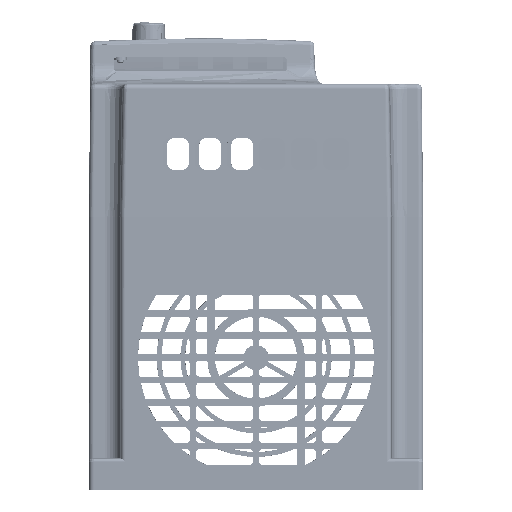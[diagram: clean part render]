
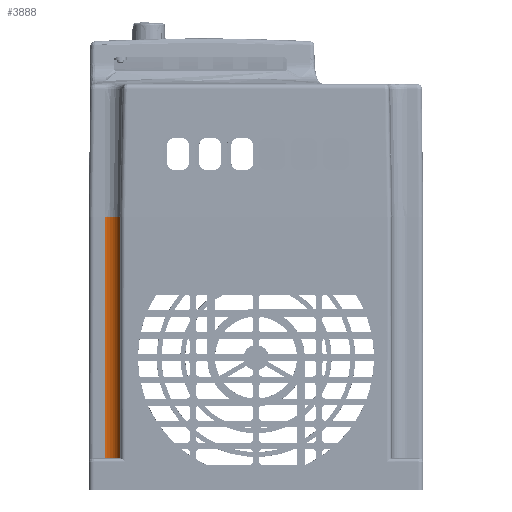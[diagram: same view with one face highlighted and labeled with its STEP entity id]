
A CAD part, front view. The second image highlights one B-rep face of the part: STEP entity #3888.
In plain terms, the highlighted cylindrical face has radius 4.999 mm (diameter 9.999 mm), a partial arc.
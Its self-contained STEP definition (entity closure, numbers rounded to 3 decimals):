
#3671 = EDGE_CURVE ( 'NONE', #5507, #5509, #103587, .T. ) ;
#3672 = EDGE_CURVE ( 'NONE', #5505, #5507, #60560, .T. ) ;
#3673 = EDGE_CURVE ( 'NONE', #5509, #5511, #60561, .T. ) ;
#3674 = EDGE_CURVE ( 'NONE', #5511, #5505, #103612, .T. ) ;
#3888 = ADVANCED_FACE ( 'NONE', ( #84211 ), #84217, .F. ) ;
#5505 = VERTEX_POINT ( 'NONE', #146332 ) ;
#5507 = VERTEX_POINT ( 'NONE', #146336 ) ;
#5509 = VERTEX_POINT ( 'NONE', #146340 ) ;
#5511 = VERTEX_POINT ( 'NONE', #146359 ) ;
#9159 = ORIENTED_EDGE ( 'NONE', *, *, #3672, .T. ) ;
#9163 = ORIENTED_EDGE ( 'NONE', *, *, #3673, .T. ) ;
#9165 = ORIENTED_EDGE ( 'NONE', *, *, #3671, .T. ) ;
#9169 = ORIENTED_EDGE ( 'NONE', *, *, #3674, .T. ) ;
#47837 = EDGE_LOOP ( 'NONE', ( #9159, #9165, #9163, #9169 ) ) ;
#60560 = CIRCLE ( 'NONE', #83341, 4.999 ) ;
#60561 = CIRCLE ( 'NONE', #83309, 4.999 ) ;
#83309 = AXIS2_PLACEMENT_3D ( 'NONE', #103602, #103605, #103607 ) ;
#83341 = AXIS2_PLACEMENT_3D ( 'NONE', #103552, #103596, #103599 ) ;
#83344 = VECTOR ( 'NONE', #103593, 1000. ) ;
#83355 = VECTOR ( 'NONE', #103617, 1000. ) ;
#84211 = FACE_OUTER_BOUND ( 'NONE', #47837, .T. ) ;
#84217 = CYLINDRICAL_SURFACE ( 'NONE', #84219, 4.999 ) ;
#84219 = AXIS2_PLACEMENT_3D ( 'NONE', #118210, #118212, #118214 ) ;
#103552 = CARTESIAN_POINT ( 'NONE',  ( -48., 5., 86.75 ) ) ;
#103587 = LINE ( 'NONE', #103590, #83344 ) ;
#103590 = CARTESIAN_POINT ( 'NONE',  ( -48., 10., 48.375 ) ) ;
#103593 = DIRECTION ( 'NONE',  ( 0., 0., -1. ) ) ;
#103596 = DIRECTION ( 'NONE',  ( 0., 0., 1. ) ) ;
#103599 = DIRECTION ( 'NONE',  ( 0., 1., 0. ) ) ;
#103602 = CARTESIAN_POINT ( 'NONE',  ( -48., 5., 10. ) ) ;
#103605 = DIRECTION ( 'NONE',  ( 0., 0., -1. ) ) ;
#103607 = DIRECTION ( 'NONE',  ( 0., 1., 0. ) ) ;
#103612 = LINE ( 'NONE', #103615, #83355 ) ;
#103615 = CARTESIAN_POINT ( 'NONE',  ( -43., 5., 48.375 ) ) ;
#103617 = DIRECTION ( 'NONE',  ( 0., 0., 1. ) ) ;
#118210 = CARTESIAN_POINT ( 'NONE',  ( -48., 5., 86.75 ) ) ;
#118212 = DIRECTION ( 'NONE',  ( 0., 0., -1. ) ) ;
#118214 = DIRECTION ( 'NONE',  ( -1., 0., 0. ) ) ;
#146332 = CARTESIAN_POINT ( 'NONE',  ( -43., 5., 86.75 ) ) ;
#146336 = CARTESIAN_POINT ( 'NONE',  ( -48., 10., 86.75 ) ) ;
#146340 = CARTESIAN_POINT ( 'NONE',  ( -48., 10., 10. ) ) ;
#146359 = CARTESIAN_POINT ( 'NONE',  ( -43., 5., 10. ) ) ;
